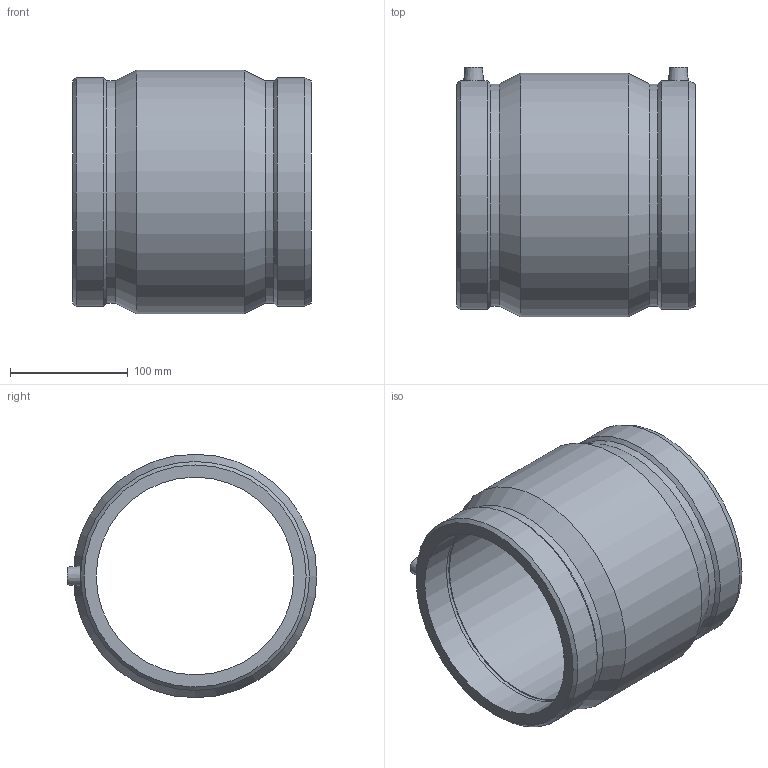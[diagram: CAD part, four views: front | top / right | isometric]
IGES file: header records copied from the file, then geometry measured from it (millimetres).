
Global section: file name: (_AS)5901B004060.ipt; native system: Autodesk Inventor 2019; preprocessor: unknown; author: KIM; date: 20210830.100841; units: inch
Bounding box: 202.95 x 212.22 x 207.01 mm (x, y, z)
Volume: 1894986 mm3; surface area: 254767.8 mm2
Topology: 1 solids, 1 shells, 32 faces, 70 edges, 46 vertices
Faces by surface type: plane 10, cone 8, cylinder 7, revolution 7
Full cylindrical faces by diameter (mm): 4 x2, 188.752 x2, 194.589 x2, 207.01 x1
